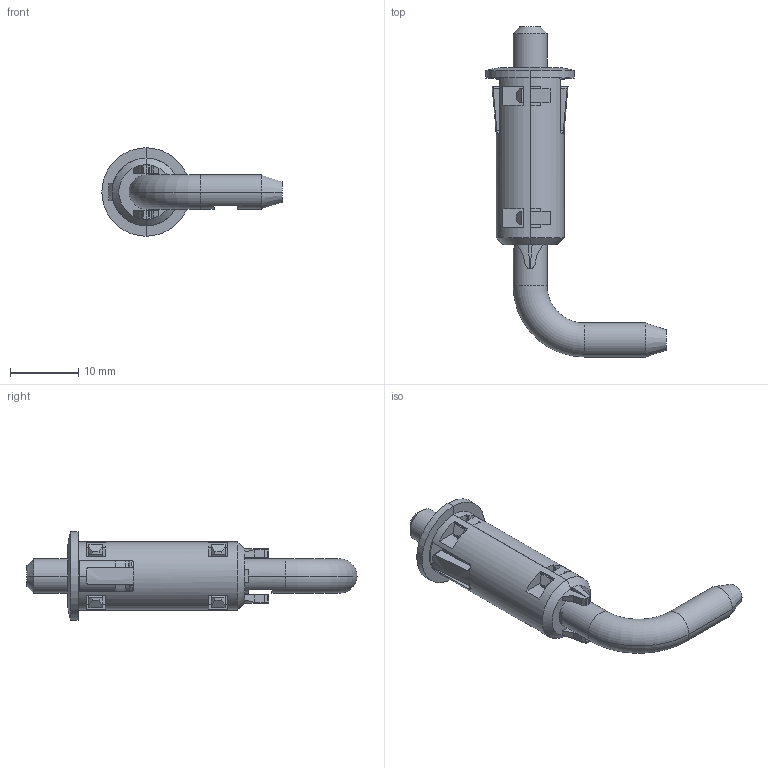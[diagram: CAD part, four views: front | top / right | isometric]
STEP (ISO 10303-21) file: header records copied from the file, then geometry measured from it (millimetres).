
FILE_DESCRIPTION((''),'2;1');
FILE_NAME('CL225-5_ASM','2016-07-14T',('master'),(''),'PRO/ENGINEER BY PARAMETRIC TECHNOLOGY CORPORATION, 2009060','PRO/ENGINEER BY PARAMETRIC TECHNOLOGY CORPORATION, 2009060','');
FILE_SCHEMA(('CONFIG_CONTROL_DESIGN'));
Length unit declared in the file: millimetre
Products named in the file (6): JIZUO-1; JIZUO-2; JIZUO_ASM; ZHUANZHOU; TANHUANG_AF0; CL225-5_ASM
Assembly tree (5 placements, depth 3):
  CL225-5_ASM
    JIZUO_ASM
      JIZUO-1
      JIZUO-2
    ZHUANZHOU
    TANHUANG_AF0
Bounding box: 26.5 x 48.5 x 13 mm (x, y, z)
Volume: 2316.5 mm3; surface area: 3287.2 mm2
Topology: 4 solids, 4 shells, 233 faces, 628 edges, 406 vertices
Faces by surface type: plane 159, cylinder 50, cone 12, bspline 10, torus 2
Entity records: 9737 total; most frequent: CARTESIAN_POINT 3776, ORIENTED_EDGE 1256, DIRECTION 1164, EDGE_CURVE 628, VECTOR 416, LINE 416, VERTEX_POINT 406, AXIS2_PLACEMENT_3D 374
